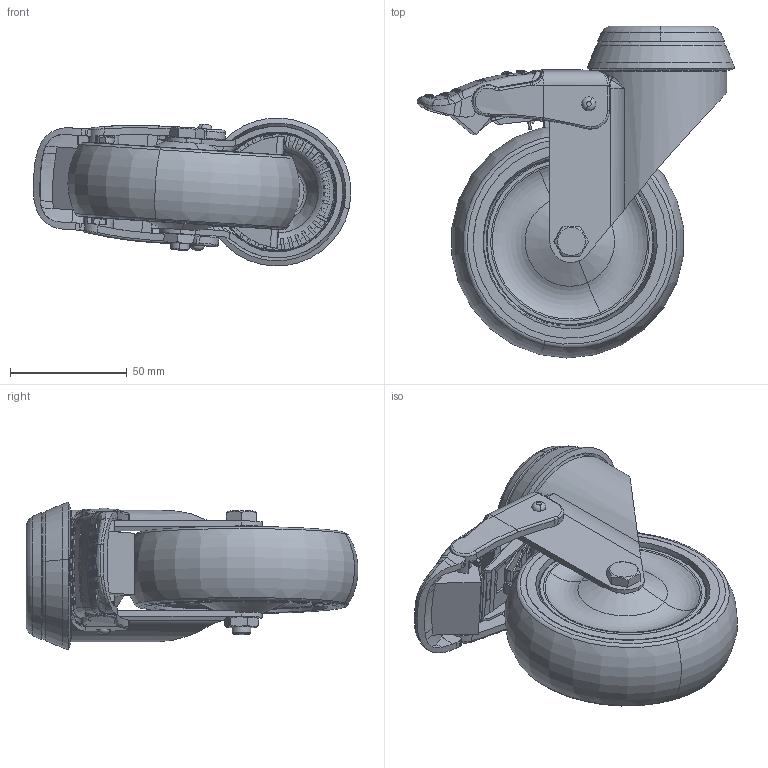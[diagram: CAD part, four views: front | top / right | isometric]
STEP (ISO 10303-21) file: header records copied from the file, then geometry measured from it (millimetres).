
FILE_DESCRIPTION (( 'STEP AP203' ), '1' );
FILE_NAME ('301583_STEP.STEP', '2012-02-28T08:23:42', ( '' ), ( '' ), 'SwSTEP 2.0', 'SolidWorks 2011', '' );
FILE_SCHEMA (( 'CONFIG_CONTROL_DESIGN' ));
Length unit declared in the file: millimetre
Products named in the file (1): 301583_STEP
Bounding box: 136.07 x 142.16 x 63.32 mm (x, y, z)
Surface area: 102786.8 mm2 (no closed solid volume)
Topology: 0 solids, 22 shells, 809 faces, 3041 edges, 2165 vertices
Faces by surface type: bspline 318, plane 281, cylinder 120, cone 51, torus 39
Entity records: 57148 total; most frequent: CARTESIAN_POINT 36250, ORIENTED_EDGE 4698, EDGE_CURVE 3036, DIRECTION 2837, VERTEX_POINT 2165, B_SPLINE_CURVE_WITH_KNOTS 1509, VECTOR 975, LINE 975
